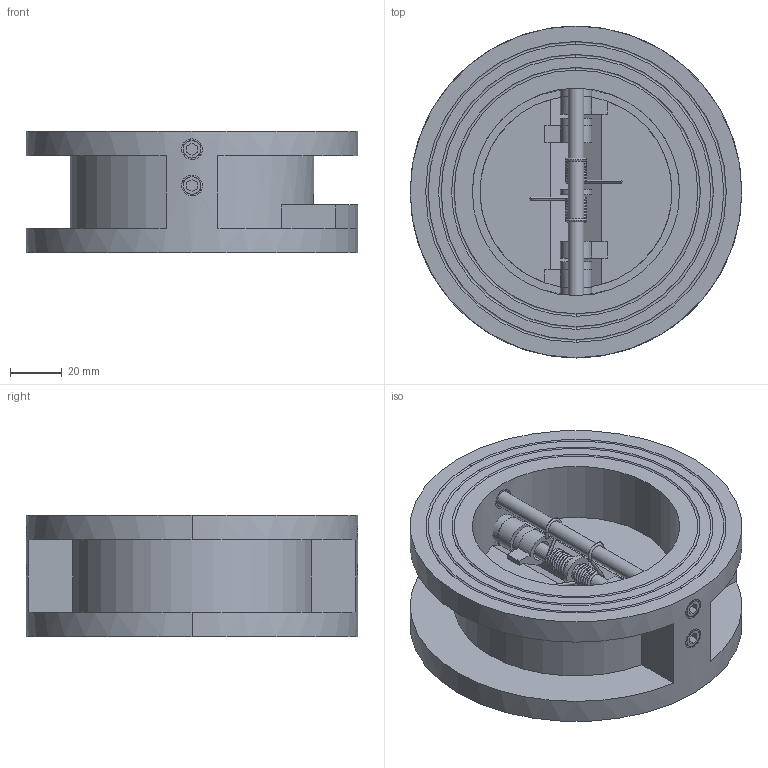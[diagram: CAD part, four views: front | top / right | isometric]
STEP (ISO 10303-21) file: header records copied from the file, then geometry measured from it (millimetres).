
FILE_DESCRIPTION((''),'2;1');
FILE_NAME('CV-16WS_SB_ASM','2026-03-23T',('user'),(''),'PRO/ENGINEER BY PARAMETRIC TECHNOLOGY CORPORATION, 2011220','PRO/ENGINEER BY PARAMETRIC TECHNOLOGY CORPORATION, 2011220','');
FILE_SCHEMA(('CONFIG_CONTROL_DESIGN'));
Length unit declared in the file: millimetre
Products named in the file (11): CV-16WS_KORPUS; CV-16WS_DET_2; CV-16WS_DET_3; CV-16WS_DET_4_SHTOK; CV-16WS_DET_5; CV-16WS_DET_6; CV-16WS_DET_7; CV-16WS_DET_8; CV-16WS_DET_9; CV-16WS_DET_10; CV-16WS_SB_ASM
Assembly tree (22 placements, depth 2):
  CV-16WS_SB_ASM
    CV-16WS_KORPUS
    CV-16WS_DET_2  x2
    CV-16WS_DET_3  x2
    CV-16WS_DET_4_SHTOK  x2
    CV-16WS_DET_5  x2
    CV-16WS_DET_6  x2
    CV-16WS_DET_7  x4
    CV-16WS_DET_8  x4
    CV-16WS_DET_9  x2
    CV-16WS_DET_10
Bounding box: 128 x 128 x 47 mm (x, y, z)
Volume: 306386.8 mm3; surface area: 98341.3 mm2
Topology: 22 solids, 30 shells, 309 faces, 718 edges, 472 vertices
Faces by surface type: plane 151, cylinder 118, torus 22, bspline 8, cone 6, revolution 4
Entity records: 9873 total; most frequent: CARTESIAN_POINT 5098, DIRECTION 1013, ORIENTED_EDGE 864, EDGE_CURVE 446, AXIS2_PLACEMENT_3D 408, VERTEX_POINT 294, EDGE_LOOP 228, VECTOR 195
